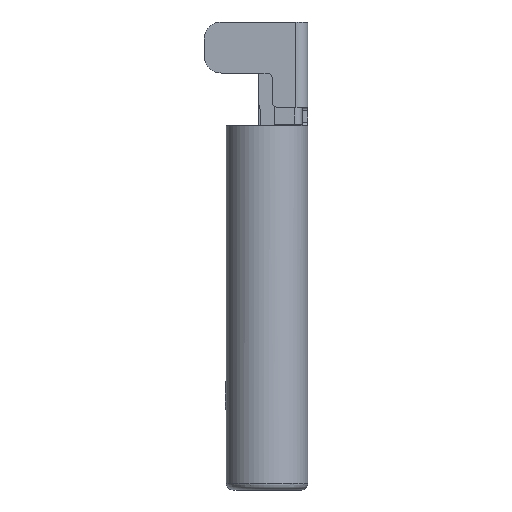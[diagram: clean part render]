
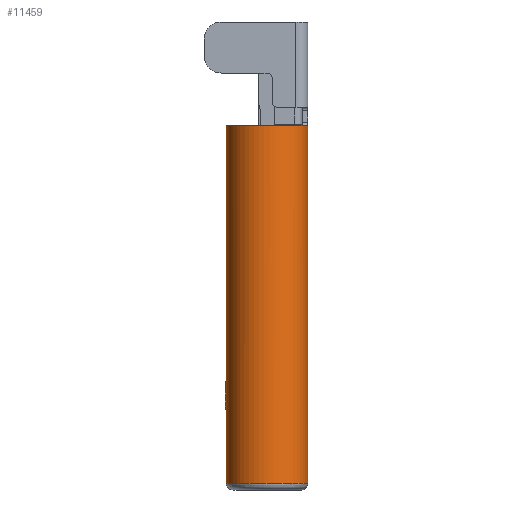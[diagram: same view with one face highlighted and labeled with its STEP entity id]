
A CAD part, left-side view. The second image highlights one B-rep face of the part: STEP entity #11459.
In plain terms, the highlighted cylindrical face has radius 1.2 mm (diameter 2.4 mm), a partial arc.
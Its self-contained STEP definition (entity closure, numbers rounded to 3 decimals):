
#104 = CARTESIAN_POINT ( 'NONE',  ( -2.925, 1.2, 10.7 ) ) ;
#377 = CARTESIAN_POINT ( 'NONE',  ( -2.925, -1.2, 10.7 ) ) ;
#598 = CARTESIAN_POINT ( 'NONE',  ( -3.084, -1.2, 10.7 ) ) ;
#5564 = CARTESIAN_POINT ( 'NONE',  ( -4.094, -0.314, 0.2 ) ) ;
#5686 = EDGE_CURVE ( 'NONE', #66879, #27266, #39898, .T. ) ;
#8048 = CARTESIAN_POINT ( 'NONE',  ( -3.973, -0.606, 10.7 ) ) ;
#9098 = CARTESIAN_POINT ( 'NONE',  ( -3.529, 1.049, 0.2 ) ) ;
#10079 = CARTESIAN_POINT ( 'NONE',  ( -2.925, 1.2, 0.2 ) ) ;
#11459 = ADVANCED_FACE ( 'NONE', ( #59111 ), #22727, .T. ) ;
#12719 = ORIENTED_EDGE ( 'NONE', *, *, #77203, .T. ) ;
#14093 = CARTESIAN_POINT ( 'NONE',  ( -3.661, -0.961, 10.7 ) ) ;
#14578 = CARTESIAN_POINT ( 'NONE',  ( -4.125, -0.159, 10.7 ) ) ;
#15058 = CARTESIAN_POINT ( 'NONE',  ( -3.661, 0.961, 10.7 ) ) ;
#15265 = DIRECTION ( 'NONE',  ( 1., 0., 0. ) ) ;
#15548 = CARTESIAN_POINT ( 'NONE',  ( -2.925, 1.2, 10.7 ) ) ;
#16128 = ORIENTED_EDGE ( 'NONE', *, *, #46182, .F. ) ;
#19945 = VERTEX_POINT ( 'NONE', #22973 ) ;
#20773 = DIRECTION ( 'NONE',  ( 0., 0., -1. ) ) ;
#21561 = CARTESIAN_POINT ( 'NONE',  ( -4.094, 0.313, 10.7 ) ) ;
#22210 = CARTESIAN_POINT ( 'NONE',  ( -2.925, -1.2, 0.2 ) ) ;
#22727 = CYLINDRICAL_SURFACE ( 'NONE', #81451, 1.2 ) ;
#22973 = CARTESIAN_POINT ( 'NONE',  ( -2.925, 1.2, 0.2 ) ) ;
#23456 = EDGE_LOOP ( 'NONE', ( #12719, #75410, #16128, #82359 ) ) ;
#27266 = VERTEX_POINT ( 'NONE', #377 ) ;
#30006 = CARTESIAN_POINT ( 'NONE',  ( -3.531, -1.048, 10.7 ) ) ;
#30499 = CARTESIAN_POINT ( 'NONE',  ( -3.531, 1.048, 10.7 ) ) ;
#30994 = CARTESIAN_POINT ( 'NONE',  ( -2.925, -1.2, 10.7 ) ) ;
#31532 = CARTESIAN_POINT ( 'NONE',  ( -3.082, 1.2, 0.2 ) ) ;
#34450 = CARTESIAN_POINT ( 'NONE',  ( -4.125, 0.157, 0.2 ) ) ;
#36654 = CARTESIAN_POINT ( 'NONE',  ( -2.925, -1.2, 10.7 ) ) ;
#37951 = CARTESIAN_POINT ( 'NONE',  ( -3.238, 1.169, 10.7 ) ) ;
#39898 = B_SPLINE_CURVE_WITH_KNOTS ( 'NONE', 3,
 ( #104, #83233, #37951, #30499, #15058, #91182, #53360, #21561, #83719, #14578, #97695, #8048, #51905, #14093, #30006, #67353, #598, #30994 ),
 .UNSPECIFIED., .F., .F.,
 ( 4, 2, 2, 2, 2, 2, 2, 2, 4 ),
 ( 0., 0.125, 0.25, 0.375, 0.5, 0.625, 0.75, 0.875, 1. ),
 .UNSPECIFIED. ) ;
#42889 = CARTESIAN_POINT ( 'NONE',  ( -3.239, -1.169, 0.2 ) ) ;
#44119 = CARTESIAN_POINT ( 'NONE',  ( -2.925, -1.2, 3.7 ) ) ;
#46182 = EDGE_CURVE ( 'NONE', #19945, #66879, #67302, .T. ) ;
#50356 = CARTESIAN_POINT ( 'NONE',  ( -3.082, -1.2, 0.2 ) ) ;
#51905 = CARTESIAN_POINT ( 'NONE',  ( -3.886, -0.736, 10.7 ) ) ;
#53015 = CARTESIAN_POINT ( 'NONE',  ( -2.925, 1.2, 3.7 ) ) ;
#53360 = CARTESIAN_POINT ( 'NONE',  ( -3.973, 0.606, 10.7 ) ) ;
#54021 = CARTESIAN_POINT ( 'NONE',  ( -2.925, -1.2, 7.2 ) ) ;
#54402 = CARTESIAN_POINT ( 'NONE',  ( -3.662, 0.96, 0.2 ) ) ;
#56673 = B_SPLINE_CURVE_WITH_KNOTS ( 'NONE', 3,
 ( #22210, #44119, #54021, #36654 ),
 .UNSPECIFIED., .F., .F.,
 ( 4, 4 ),
 ( 0., 1. ),
 .UNSPECIFIED. ) ;
#56857 = CARTESIAN_POINT ( 'NONE',  ( -3.529, -1.049, 0.2 ) ) ;
#57854 = CARTESIAN_POINT ( 'NONE',  ( -4.125, -0.157, 0.2 ) ) ;
#58334 = CARTESIAN_POINT ( 'NONE',  ( -2.925, -1.2, 0.2 ) ) ;
#59111 = FACE_OUTER_BOUND ( 'NONE', #23456, .T. ) ;
#60500 = CARTESIAN_POINT ( 'NONE',  ( -2.925, 1.2, 0.2 ) ) ;
#61872 = CARTESIAN_POINT ( 'NONE',  ( -3.239, 1.169, 0.2 ) ) ;
#64796 = CARTESIAN_POINT ( 'NONE',  ( -3.974, -0.604, 0.2 ) ) ;
#65803 = CARTESIAN_POINT ( 'NONE',  ( -4.094, 0.314, 0.2 ) ) ;
#66879 = VERTEX_POINT ( 'NONE', #15548 ) ;
#67302 = B_SPLINE_CURVE_WITH_KNOTS ( 'NONE', 3,
 ( #60500, #53015, #82897, #83383 ),
 .UNSPECIFIED., .F., .F.,
 ( 4, 4 ),
 ( 0., 1. ),
 .UNSPECIFIED. ) ;
#67353 = CARTESIAN_POINT ( 'NONE',  ( -3.237, -1.17, 10.7 ) ) ;
#67565 = VERTEX_POINT ( 'NONE', #96981 ) ;
#73265 = CARTESIAN_POINT ( 'NONE',  ( -3.885, -0.737, 0.2 ) ) ;
#74039 = CARTESIAN_POINT ( 'NONE',  ( -2.925, 0., 10.91 ) ) ;
#75410 = ORIENTED_EDGE ( 'NONE', *, *, #5686, .F. ) ;
#77203 = EDGE_CURVE ( 'NONE', #67565, #27266, #56673, .T. ) ;
#81451 = AXIS2_PLACEMENT_3D ( 'NONE', #74039, #20773, #15265 ) ;
#82359 = ORIENTED_EDGE ( 'NONE', *, *, #86194, .T. ) ;
#82583 = B_SPLINE_CURVE_WITH_KNOTS ( 'NONE', 3,
 ( #10079, #31532, #61872, #9098, #54402, #84751, #86702, #65803, #34450, #57854, #5564, #64796, #73265, #95149, #56857, #42889, #50356, #58334 ),
 .UNSPECIFIED., .F., .F.,
 ( 4, 2, 2, 2, 2, 2, 2, 2, 4 ),
 ( 0., 0.125, 0.25, 0.375, 0.5, 0.625, 0.75, 0.875, 1. ),
 .UNSPECIFIED. ) ;
#82897 = CARTESIAN_POINT ( 'NONE',  ( -2.925, 1.2, 7.2 ) ) ;
#83233 = CARTESIAN_POINT ( 'NONE',  ( -3.084, 1.2, 10.7 ) ) ;
#83383 = CARTESIAN_POINT ( 'NONE',  ( -2.925, 1.2, 10.7 ) ) ;
#83719 = CARTESIAN_POINT ( 'NONE',  ( -4.125, 0.159, 10.7 ) ) ;
#84751 = CARTESIAN_POINT ( 'NONE',  ( -3.885, 0.737, 0.2 ) ) ;
#86194 = EDGE_CURVE ( 'NONE', #19945, #67565, #82583, .T. ) ;
#86702 = CARTESIAN_POINT ( 'NONE',  ( -3.974, 0.604, 0.2 ) ) ;
#91182 = CARTESIAN_POINT ( 'NONE',  ( -3.886, 0.736, 10.7 ) ) ;
#95149 = CARTESIAN_POINT ( 'NONE',  ( -3.662, -0.96, 0.2 ) ) ;
#96981 = CARTESIAN_POINT ( 'NONE',  ( -2.925, -1.2, 0.2 ) ) ;
#97695 = CARTESIAN_POINT ( 'NONE',  ( -4.094, -0.313, 10.7 ) ) ;
